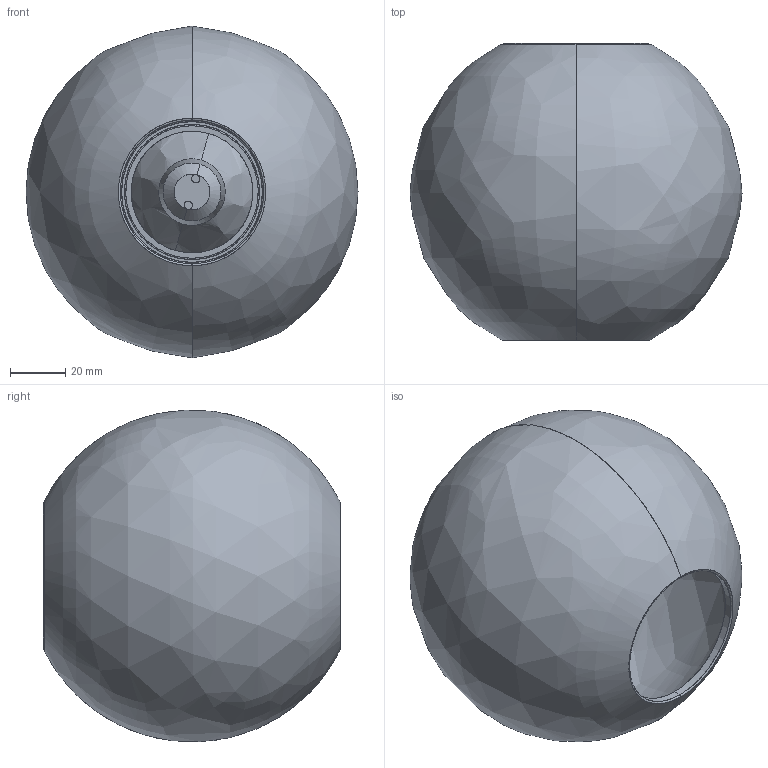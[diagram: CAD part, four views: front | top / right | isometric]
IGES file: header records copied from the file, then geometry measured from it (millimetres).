
Start section: SolidWorks IGES file using analytic representation for surfaces
Global section: file name: C:\Users\ppp\Desktop\Nowodvorski\Modele 3D_lampy\Bubble\3ds\Bubble_oprawa_wys 11 cm_GU10.IGS; native system: SolidWorks 2012; preprocessor: SolidWorks 2012; author: ppp; date: 150727.104525; units: millimetre
Bounding box: 120.34 x 107.68 x 120.24 mm (x, y, z)
Surface area: 95913 mm2 (no closed solid volume)
Topology: 0 solids, 0 shells, 64 faces, 1128 edges, 1122 vertices
Faces by surface type: bspline 36, revolution 28
